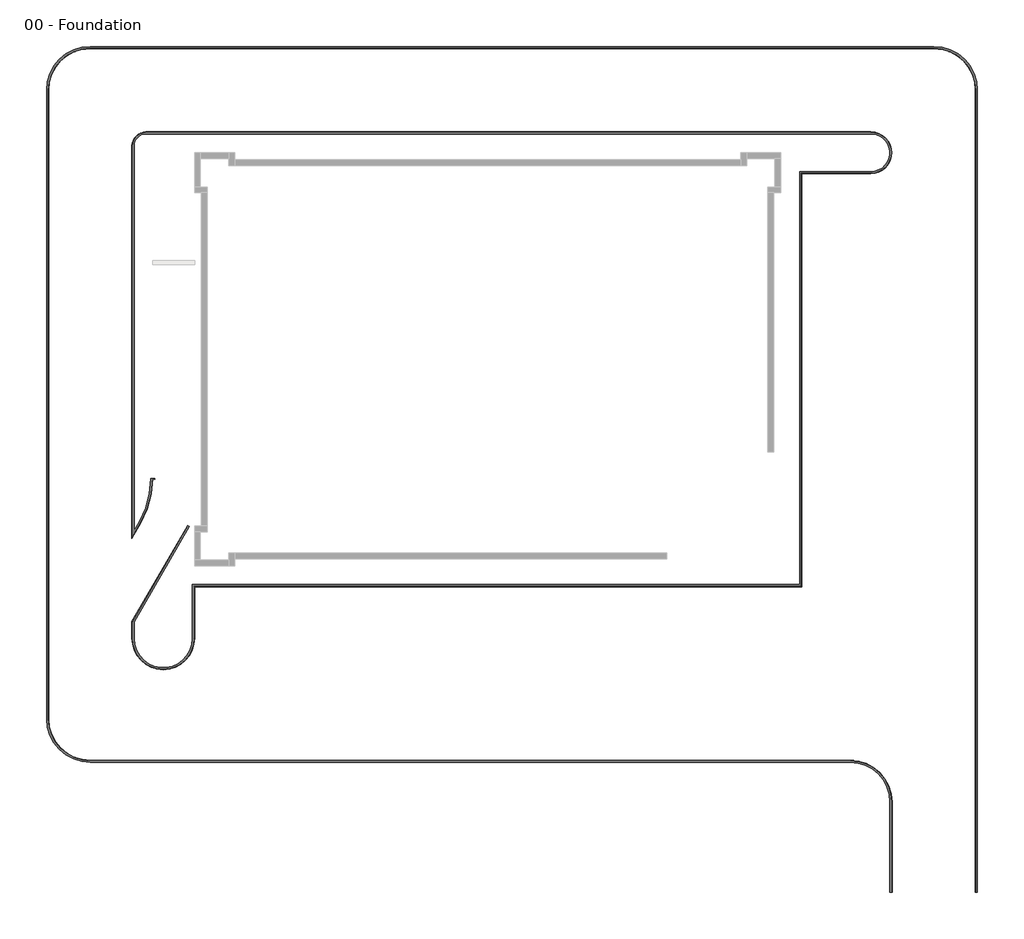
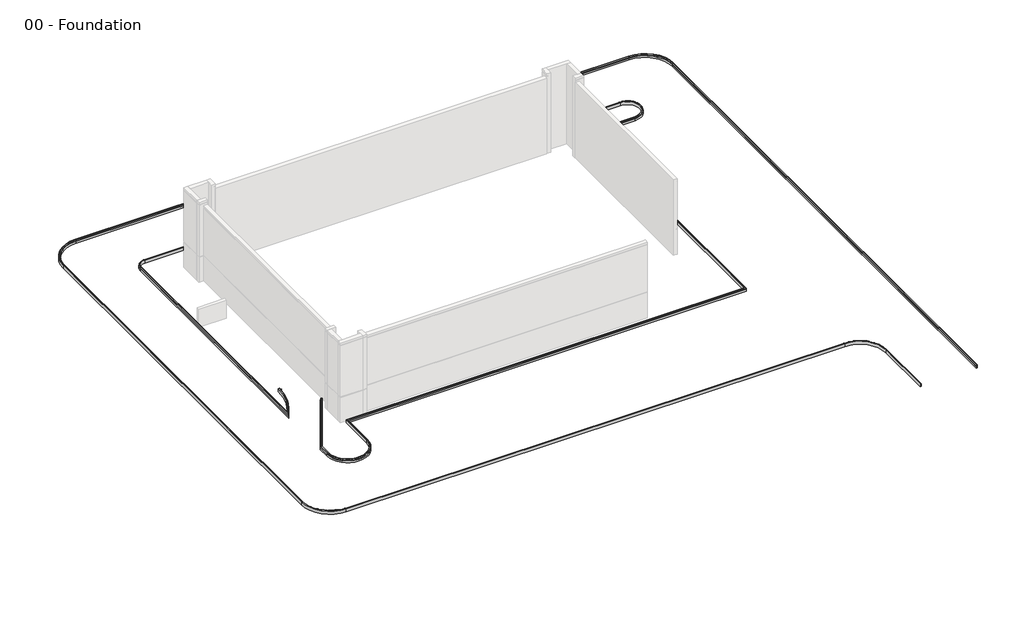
# One storey, part 2 of 2: 1 proxy.
"""IFC4 building model written with IfcOpenShell, lengths in millimetres."""

from ifc_helpers import new_model, si_unit, point, frame, origin, place, context, project, spatial, polyline, circle_curve, ellipse_curve, trimmed, element, save
from ifc_brep_helpers import plane_surface, cylinder_surface, revolved_surface, advanced_brep

model = new_model("IFC4")

# Units and contexts
model_context = context("Model", 3, world=origin())
ifc_project = project(units=[si_unit("LENGTHUNIT", "METRE", prefix="MILLI")], contexts=[model_context])

# Site, building, storey
site = spatial("IfcSite", under=ifc_project)
building = spatial("IfcBuilding", under=site)
storey = spatial("IfcBuildingStorey", under=building, Name="00 - Foundation", Elevation=-1250.0)

# Proxy
placement = place(None, origin())
element("IfcBuildingElementProxy", 1, Name="Curb", ObjectType="Curb", at=placement, inside=storey, context=model_context, shape_type="AdvancedBrep", body=[
    advanced_brep(
    [(33302.6061884, -38406.9313057, -36.4135952), (33280.5272279, -38406.9313057, -150.0), (33280.5272279, -38406.9313057, -350.0), (33430.5272279, -38406.9313057, -350.0), (33430.5272279, -38406.9313057, 0.0), (33346.7794117, -38406.9313057, 0.0), (33302.6061884, 19343.0686943, -36.4135952), (33280.5272279, 19343.0686943, -150.0), (33430.5272279, 19343.0686943, -350.0), (33280.5272279, 19343.0686943, -350.0), (33430.5272279, 19343.0686943, 0.0), (33346.7794117, 19343.0686943, 0.0), (30280.5272279, 22343.0686943, -150.0), (30280.5272279, 22343.0686943, -350.0), (27280.5272279, -38406.9313057, -150.0), (27258.4482674, -38406.9313057, -36.4135952), (27214.2750442, -38406.9313057, 0.0), (27130.5272279, -38406.9313057, 0.0), (27130.5272279, -38406.9313057, -350.0), (27280.5272279, -38406.9313057, -350.0), (27280.5272279, -31906.9313057, -150.0), (27258.4482674, -31906.9313057, -36.4135952), (27130.5272279, -31906.9313057, -350.0), (27280.5272279, -31906.9313057, -350.0), (27130.5272279, -31906.9313057, 0.0), (27214.2750442, -31906.9313057, 0.0), (24280.5272279, -28906.9313057, -350.0), (24280.5272279, -28906.9313057, -150.0), (24280.5272279, -28929.0102661, -36.4135952), (24280.5272279, -29056.9313057, -350.0), (24280.5272279, -29056.9313057, 0.0), (24280.5272279, -28973.1834894, 0.0), (-30419.4727721, -28906.9313057, -350.0), (-30419.4727721, -28906.9313057, -150.0), (-30419.4727721, -28929.0102661, -36.4135952), (-30419.4727721, -29056.9313057, -350.0), (-30419.4727721, -29056.9313057, 0.0), (-30419.4727721, -28973.1834894, 0.0), (-33419.4727721, -25906.9313057, -350.0), (-33419.4727721, -25906.9313057, -150.0), (-33419.4727721, 19343.0686943, -150.0), (-33419.4727721, 19343.0686943, -350.0), (-30419.4727721, 22343.0686943, -350.0), (-30419.4727721, 22343.0686943, -150.0), (-33441.5517326, -25906.9313057, -36.4135952), (-33569.4727721, -25906.9313057, -350.0), (-33569.4727721, -25906.9313057, 0.0), (-33485.7249558, -25906.9313057, 0.0), (-33441.5517326, 19343.0686943, -36.4135952), (-33569.4727721, 19343.0686943, -350.0), (-33569.4727721, 19343.0686943, 0.0), (-33485.7249558, 19343.0686943, 0.0), (-30419.4727721, 22365.1476548, -36.4135952), (-30419.4727721, 22493.0686943, -350.0), (-30419.4727721, 22493.0686943, 0.0), (-30419.4727721, 22409.3208781, 0.0), (30280.5272279, 22365.1476548, -36.4135952), (30280.5272279, 22493.0686943, -350.0), (30280.5272279, 22493.0686943, 0.0), (30280.5272279, 22409.3208781, 0.0)],
    [
        (0, 1),
        (1, 2),
        (2, 3),
        (3, 4),
        (4, 5),
        (5, 0, circle_curve(frame((33346.7794117, -38406.9313057, -45.0), z_axis=(0.0, -1.0, 0.0), x_axis=(1.0, 0.0, 0.0)), 45.0)),
        (0, 6),
        (6, 7),
        (7, 1),
        (8, 3),
        (2, 9),
        (9, 8),
        (8, 10),
        (10, 4),
        (10, 11),
        (11, 5),
        (11, 6, circle_curve(frame((33346.7794117, 19343.0686943, -45.0), z_axis=(0.0, -1.0, 0.0), x_axis=(1.0, 0.0, 0.0)), 45.0)),
        (9, 7),
        (7, 12, circle_curve(frame((30280.5272279, 19343.0686943, -150.0), z_axis=(0.0, 0.0, 1.0), x_axis=(1.0, 0.0, 0.0)), 3000.0)),
        (12, 13),
        (13, 9, circle_curve(frame((30280.5272279, 19343.0686943, -350.0), z_axis=(0.0, 0.0, -1.0), x_axis=(1.0, 0.0, 0.0)), 3000.0)),
        (14, 15),
        (15, 16, circle_curve(frame((27214.2750442, -38406.9313057, -45.0), z_axis=(0.0, -1.0, 0.0), x_axis=(-1.0, 0.0, 0.0)), 45.0)),
        (16, 17),
        (17, 18),
        (18, 19),
        (19, 14),
        (20, 21),
        (21, 15),
        (14, 20),
        (18, 22),
        (22, 23),
        (23, 19),
        (24, 22),
        (17, 24),
        (25, 24),
        (16, 25),
        (21, 25, circle_curve(frame((27214.2750442, -31906.9313057, -45.0), z_axis=(0.0, -1.0, 0.0), x_axis=(-1.0, 0.0, 0.0)), 45.0)),
        (23, 20),
        (23, 26, circle_curve(frame((24280.5272279, -31906.9313057, -350.0), z_axis=(0.0, 0.0, 1.0), x_axis=(1.0, 0.0, 0.0)), 3000.0)),
        (26, 27),
        (27, 20, circle_curve(frame((24280.5272279, -31906.9313057, -150.0), z_axis=(0.0, 0.0, -1.0), x_axis=(1.0, 0.0, 0.0)), 3000.0)),
        (27, 28),
        (28, 21, circle_curve(frame((24280.5272279, -31906.9313057, -36.4135952), z_axis=(0.0, 0.0, -1.0), x_axis=(0.0, 1.0, 0.0)), 2977.9210395)),
        (22, 29, circle_curve(frame((24280.5272279, -31906.9313057, -350.0), z_axis=(0.0, 0.0, 1.0), x_axis=(0.0, 1.0, 0.0)), 2850.0)),
        (29, 26),
        (24, 30, circle_curve(frame((24280.5272279, -31906.9313057, 0.0), z_axis=(0.0, 0.0, 1.0), x_axis=(0.0, 1.0, 0.0)), 2850.0)),
        (30, 29),
        (25, 31, circle_curve(frame((24280.5272279, -31906.9313057, 0.0), z_axis=(0.0, 0.0, 1.0), x_axis=(0.0, 1.0, 0.0)), 2933.7478163)),
        (31, 30),
        (28, 31, circle_curve(frame((24280.5272279, -28973.1834894, -45.0), z_axis=(1.0, 0.0, 0.0), x_axis=(0.0, -1.0, 0.0)), 45.0)),
        (26, 32),
        (32, 33),
        (33, 27),
        (33, 34),
        (34, 28),
        (29, 35),
        (35, 32),
        (30, 36),
        (36, 35),
        (31, 37),
        (37, 36),
        (34, 37, circle_curve(frame((-30419.4727721, -28973.1834894, -45.0), z_axis=(1.0, 0.0, 0.0), x_axis=(0.0, -1.0, 0.0)), 45.0)),
        (32, 38, circle_curve(frame((-30419.4727721, -25906.9313057, -350.0), z_axis=(0.0, 0.0, -1.0), x_axis=(1.0, 0.0, 0.0)), 3000.0)),
        (38, 39),
        (39, 33, circle_curve(frame((-30419.4727721, -25906.9313057, -150.0), z_axis=(0.0, 0.0, 1.0), x_axis=(1.0, 0.0, 0.0)), 3000.0)),
        (40, 41),
        (41, 42, circle_curve(frame((-30419.4727721, 19343.0686943, -350.0), z_axis=(0.0, 0.0, -1.0), x_axis=(1.0, 0.0, 0.0)), 3000.0)),
        (42, 43),
        (43, 40, circle_curve(frame((-30419.4727721, 19343.0686943, -150.0), z_axis=(0.0, 0.0, 1.0), x_axis=(1.0, 0.0, 0.0)), 3000.0)),
        (39, 44),
        (44, 34, circle_curve(frame((-30419.4727721, -25906.9313057, -36.4135952), z_axis=(0.0, 0.0, 1.0), x_axis=(-1.0, 0.0, 0.0)), 3022.0789605)),
        (35, 45, circle_curve(frame((-30419.4727721, -25906.9313057, -350.0), z_axis=(0.0, 0.0, -1.0), x_axis=(-1.0, 0.0, 0.0)), 3150.0)),
        (45, 38),
        (36, 46, circle_curve(frame((-30419.4727721, -25906.9313057, 0.0), z_axis=(0.0, 0.0, -1.0), x_axis=(-1.0, 0.0, 0.0)), 3150.0)),
        (46, 45),
        (37, 47, circle_curve(frame((-30419.4727721, -25906.9313057, 0.0), z_axis=(0.0, 0.0, -1.0), x_axis=(-1.0, 0.0, 0.0)), 3066.2521837)),
        (47, 46),
        (44, 47, circle_curve(frame((-33485.7249558, -25906.9313057, -45.0), z_axis=(0.0, -1.0, 0.0), x_axis=(-1.0, 0.0, 0.0)), 45.0)),
        (38, 41),
        (40, 39),
        (40, 48),
        (48, 44),
        (45, 49),
        (49, 41),
        (46, 50),
        (50, 49),
        (47, 51),
        (51, 50),
        (48, 51, circle_curve(frame((-33485.7249558, 19343.0686943, -45.0), z_axis=(0.0, -1.0, 0.0), x_axis=(-1.0, 0.0, 0.0)), 45.0)),
        (43, 52),
        (52, 48, circle_curve(frame((-30419.4727721, 19343.0686943, -36.4135952), z_axis=(0.0, 0.0, 1.0), x_axis=(0.0, 1.0, 0.0)), 3022.0789605)),
        (49, 53, circle_curve(frame((-30419.4727721, 19343.0686943, -350.0), z_axis=(0.0, 0.0, -1.0), x_axis=(0.0, 1.0, 0.0)), 3150.0)),
        (53, 42),
        (50, 54, circle_curve(frame((-30419.4727721, 19343.0686943, 0.0), z_axis=(0.0, 0.0, -1.0), x_axis=(0.0, 1.0, 0.0)), 3150.0)),
        (54, 53),
        (51, 55, circle_curve(frame((-30419.4727721, 19343.0686943, 0.0), z_axis=(0.0, 0.0, -1.0), x_axis=(0.0, 1.0, 0.0)), 3066.2521837)),
        (55, 54),
        (52, 55, circle_curve(frame((-30419.4727721, 22409.3208781, -45.0), z_axis=(-1.0, 0.0, 0.0), x_axis=(0.0, 1.0, 0.0)), 45.0)),
        (42, 13),
        (12, 43),
        (12, 56),
        (56, 52),
        (53, 57),
        (57, 13),
        (54, 58),
        (58, 57),
        (55, 59),
        (59, 58),
        (56, 59, circle_curve(frame((30280.5272279, 22409.3208781, -45.0), z_axis=(-1.0, 0.0, 0.0), x_axis=(0.0, 1.0, 0.0)), 45.0)),
        (6, 56, circle_curve(frame((30280.5272279, 19343.0686943, -36.4135952), z_axis=(0.0, 0.0, 1.0), x_axis=(1.0, 0.0, 0.0)), 3022.0789605)),
        (57, 8, circle_curve(frame((30280.5272279, 19343.0686943, -350.0), z_axis=(0.0, 0.0, -1.0), x_axis=(1.0, 0.0, 0.0)), 3150.0)),
        (58, 10, circle_curve(frame((30280.5272279, 19343.0686943, 0.0), z_axis=(0.0, 0.0, -1.0), x_axis=(1.0, 0.0, 0.0)), 3150.0)),
        (59, 11, circle_curve(frame((30280.5272279, 19343.0686943, 0.0), z_axis=(0.0, 0.0, -1.0), x_axis=(1.0, 0.0, 0.0)), 3066.2521837)),
    ],
    [
        plane_surface(frame((33030.5272279, -38406.9313057, -150.0), z_axis=(0.0, -1.0, 0.0), x_axis=(0.0, 0.0, 1.0))),
        plane_surface(frame((33302.6061884, -38406.9313057, -36.4135952), z_axis=(-0.9816271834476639, 0.0, 0.1908089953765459), x_axis=(0.0, 1.0, 0.0))),
        plane_surface(frame((33130.5272279, -38406.9313057, -350.0), z_axis=(0.0, 0.0, -1.0), x_axis=(0.0, 1.0, 0.0))),
        plane_surface(frame((33430.5272279, -38406.9313057, -350.0), z_axis=(1.0, 0.0, 0.0), x_axis=(0.0, 1.0, 0.0))),
        plane_surface(frame((33430.5272279, -38406.9313057, 0.0), z_axis=(0.0, 0.0, 1.0), x_axis=(0.0, 1.0, 0.0))),
        cylinder_surface(frame((33346.7794117, -38406.9313057, -45.0), z_axis=(0.0, -1.0, 0.0), x_axis=(1.0, 0.0, 0.0)), 45.0),
        revolved_surface(polyline([(33280.5272279, 19343.0686943, -350.0), (33280.5272279, 19343.0686943, -150.0)]), (30280.5272279, 19343.0686943, -150.0), (0.0, 0.0, -1.0)),
        plane_surface(frame((33280.5272279, 19343.0686943, -2350.0), z_axis=(-1.0, 0.0, 0.0), x_axis=(0.0, 0.0, 1.0))),
        plane_surface(frame((27030.5272279, -38406.9313057, -150.0), z_axis=(0.0, -1.0, 0.0), x_axis=(0.0, 0.0, -1.0))),
        plane_surface(frame((27258.4482674, -31906.9313057, -36.4135952), z_axis=(0.9816271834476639, 0.0, 0.1908089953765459), x_axis=(0.0, -1.0, 0.0))),
        plane_surface(frame((27430.5272279, -31906.9313057, -350.0), z_axis=(0.0, 0.0, -1.0), x_axis=(0.0, -1.0, 0.0))),
        plane_surface(frame((27130.5272279, -31906.9313057, -350.0), z_axis=(-1.0, 0.0, 0.0), x_axis=(0.0, -1.0, 0.0))),
        plane_surface(frame((27130.5272279, -31906.9313057, 0.0), z_axis=(0.0, 0.0, 1.0), x_axis=(0.0, -1.0, 0.0))),
        cylinder_surface(frame((27214.2750442, -31906.9313057, -45.0), z_axis=(0.0, 1.0, 0.0), x_axis=(-1.0, 0.0, 0.0)), 45.0),
        plane_surface(frame((27280.5272279, -38406.9313057, -2350.0), z_axis=(1.0, 0.0, 0.0), x_axis=(0.0, 0.0, 1.0))),
        cylinder_surface(frame((24280.5272279, -31906.9313057, -150.0), z_axis=(0.0, 0.0, 1.0), x_axis=(1.0, 0.0, 0.0)), 3000.0),
        revolved_surface(polyline([(24280.5272279, -28929.0102661, -36.4135952), (24280.5272279, -28906.9313057, -150.0)]), (24280.5272279, -31906.9313057, -150.0), (0.0, 0.0, -1.0)),
        plane_surface(frame((24280.5272279, -31906.9313057, -350.0), z_axis=(0.0, 0.0, -1.0), x_axis=(0.0, 1.0, 0.0))),
        revolved_surface(polyline([(24280.5272279, -29056.9313057, -350.0), (24280.5272279, -29056.9313057, 0.0)]), (24280.5272279, -31906.9313057, -150.0), (0.0, 0.0, -1.0)),
        plane_surface(frame((24280.5272279, -31906.9313057, 0.0), z_axis=(0.0, 0.0, 1.0), x_axis=(0.0, 1.0, 0.0))),
        revolved_surface(trimmed(ellipse_curve(frame((24280.5272279, -28973.1834894, -45.0), z_axis=(-1.0, 0.0, 0.0), x_axis=(0.0, -1.0, 0.0)), 45.0, 45.0), [point((24280.5272279, -28973.1834894, 0.0))], [point((24280.5272279, -28929.0102661, -36.4135952))], True, "CARTESIAN"), (24280.5272279, -31906.9313057, -150.0), (0.0, 0.0, -1.0)),
        plane_surface(frame((24280.5272279, -28906.9313057, -2350.0), z_axis=(0.0, 1.0, 0.0), x_axis=(0.0, 0.0, 1.0))),
        plane_surface(frame((-30419.4727721, -28929.0102661, -36.4135952), z_axis=(0.0, 0.9816271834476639, 0.1908089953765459), x_axis=(1.0, 0.0, 0.0))),
        plane_surface(frame((-30419.4727721, -28756.9313057, -350.0), z_axis=(0.0, 0.0, -1.0), x_axis=(1.0, 0.0, 0.0))),
        plane_surface(frame((-30419.4727721, -29056.9313057, -350.0), z_axis=(0.0, -1.0, 0.0), x_axis=(1.0, 0.0, 0.0))),
        plane_surface(frame((-30419.4727721, -29056.9313057, 0.0), z_axis=(0.0, 0.0, 1.0), x_axis=(1.0, 0.0, 0.0))),
        cylinder_surface(frame((-30419.4727721, -28973.1834894, -45.0), z_axis=(-1.0, 0.0, 0.0), x_axis=(0.0, -1.0, 0.0)), 45.0),
        revolved_surface(polyline([(-27419.4727721, -25906.9313057, -350.0), (-27419.4727721, -25906.9313057, -150.0)]), (-30419.4727721, -25906.9313057, -150.0), (0.0, 0.0, -1.0)),
        revolved_surface(polyline([(-27419.4727721, 19343.0686943, -350.0), (-27419.4727721, 19343.0686943, -150.0)]), (-30419.4727721, 19343.0686943, -150.0), (0.0, 0.0, -1.0)),
        revolved_surface(polyline([(-33441.5517326, -25906.9313057, -36.4135952), (-33419.4727721, -25906.9313057, -150.0)]), (-30419.4727721, -25906.9313057, -150.0), (0.0, 0.0, 1.0)),
        plane_surface(frame((-30419.4727721, -25906.9313057, -350.0), z_axis=(0.0, 0.0, -1.0), x_axis=(-1.0, 0.0, 0.0))),
        cylinder_surface(frame((-30419.4727721, -25906.9313057, -150.0), z_axis=(0.0, 0.0, 1.0), x_axis=(-1.0, 0.0, 0.0)), 3150.0),
        plane_surface(frame((-30419.4727721, -25906.9313057, 0.0), z_axis=(0.0, 0.0, 1.0), x_axis=(-1.0, 0.0, 0.0))),
        revolved_surface(trimmed(ellipse_curve(frame((-33485.7249558, -25906.9313057, -45.0), z_axis=(0.0, 1.0, 0.0), x_axis=(-1.0, 0.0, 0.0)), 45.0, 45.0), [point((-33485.7249558, -25906.9313057, 0.0))], [point((-33441.5517326, -25906.9313057, -36.4135952))], True, "CARTESIAN"), (-30419.4727721, -25906.9313057, -150.0), (0.0, 0.0, 1.0)),
        plane_surface(frame((-33419.4727721, -25906.9313057, -2350.0), z_axis=(1.0, 0.0, 0.0), x_axis=(0.0, 0.0, 1.0))),
        plane_surface(frame((-33441.5517326, 19343.0686943, -36.4135952), z_axis=(0.9816271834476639, 0.0, 0.1908089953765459), x_axis=(0.0, -1.0, 0.0))),
        plane_surface(frame((-33269.4727721, 19343.0686943, -350.0), z_axis=(0.0, 0.0, -1.0), x_axis=(0.0, -1.0, 0.0))),
        plane_surface(frame((-33569.4727721, 19343.0686943, -350.0), z_axis=(-1.0, 0.0, 0.0), x_axis=(0.0, -1.0, 0.0))),
        plane_surface(frame((-33569.4727721, 19343.0686943, 0.0), z_axis=(0.0, 0.0, 1.0), x_axis=(0.0, -1.0, 0.0))),
        cylinder_surface(frame((-33485.7249558, 19343.0686943, -45.0), z_axis=(0.0, 1.0, 0.0), x_axis=(-1.0, 0.0, 0.0)), 45.0),
        revolved_surface(polyline([(-30419.4727721, 22365.1476548, -36.4135952), (-30419.4727721, 22343.0686943, -150.0)]), (-30419.4727721, 19343.0686943, -150.0), (0.0, 0.0, 1.0)),
        plane_surface(frame((-30419.4727721, 19343.0686943, -350.0), z_axis=(0.0, 0.0, -1.0), x_axis=(0.0, 1.0, 0.0))),
        cylinder_surface(frame((-30419.4727721, 19343.0686943, -150.0), z_axis=(0.0, 0.0, 1.0), x_axis=(0.0, 1.0, 0.0)), 3150.0),
        plane_surface(frame((-30419.4727721, 19343.0686943, 0.0), z_axis=(0.0, 0.0, 1.0), x_axis=(0.0, 1.0, 0.0))),
        revolved_surface(trimmed(ellipse_curve(frame((-30419.4727721, 22409.3208781, -45.0), z_axis=(1.0, 0.0, 0.0), x_axis=(0.0, 1.0, 0.0)), 45.0, 45.0), [point((-30419.4727721, 22409.3208781, 0.0))], [point((-30419.4727721, 22365.1476548, -36.4135952))], True, "CARTESIAN"), (-30419.4727721, 19343.0686943, -150.0), (0.0, 0.0, 1.0)),
        plane_surface(frame((-30419.4727721, 22343.0686943, -2350.0), z_axis=(0.0, -1.0, 0.0), x_axis=(0.0, 0.0, 1.0))),
        plane_surface(frame((30280.5272279, 22365.1476548, -36.4135952), z_axis=(0.0, -0.9816271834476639, 0.1908089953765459), x_axis=(-1.0, 0.0, 0.0))),
        plane_surface(frame((30280.5272279, 22193.0686943, -350.0), z_axis=(0.0, 0.0, -1.0), x_axis=(-1.0, 0.0, 0.0))),
        plane_surface(frame((30280.5272279, 22493.0686943, -350.0), z_axis=(0.0, 1.0, 0.0), x_axis=(-1.0, 0.0, 0.0))),
        plane_surface(frame((30280.5272279, 22493.0686943, 0.0), z_axis=(0.0, 0.0, 1.0), x_axis=(-1.0, 0.0, 0.0))),
        cylinder_surface(frame((30280.5272279, 22409.3208781, -45.0), z_axis=(1.0, 0.0, 0.0), x_axis=(0.0, 1.0, 0.0)), 45.0),
        revolved_surface(polyline([(33302.6061884, 19343.0686943, -36.4135952), (33280.5272279, 19343.0686943, -150.0)]), (30280.5272279, 19343.0686943, -150.0), (0.0, 0.0, 1.0)),
        plane_surface(frame((30280.5272279, 19343.0686943, -350.0), z_axis=(0.0, 0.0, -1.0), x_axis=(1.0, 0.0, 0.0))),
        cylinder_surface(frame((30280.5272279, 19343.0686943, -150.0), z_axis=(0.0, 0.0, 1.0), x_axis=(1.0, 0.0, 0.0)), 3150.0),
        plane_surface(frame((30280.5272279, 19343.0686943, 0.0), z_axis=(0.0, 0.0, 1.0), x_axis=(1.0, 0.0, 0.0))),
        revolved_surface(trimmed(ellipse_curve(frame((33346.7794117, 19343.0686943, -45.0), z_axis=(0.0, -1.0, 0.0), x_axis=(1.0, 0.0, 0.0)), 45.0, 45.0), [point((33346.7794117, 19343.0686943, 0.0))], [point((33302.6061884, 19343.0686943, -36.4135952))], True, "CARTESIAN"), (30280.5272279, 19343.0686943, -150.0), (0.0, 0.0, 1.0)),
    ],
    [
        (0, [[1, 2, 3, 4, 5, 6]]),
        (1, [[-1, 7, 8, 9]]),
        (2, [[10, -3, 11, 12]]),
        (3, [[-4, -10, 13, 14]]),
        (4, [[-5, -14, 15, 16]]),
        (5, [[-6, -16, 17, -7]]),
        (6, [[18, 19, 20, 21]]),
        (7, [[-18, -11, -2, -9]]),
        (8, [[22, 23, 24, 25, 26, 27]]),
        (9, [[28, 29, -22, 30]]),
        (10, [[31, 32, 33, -26]]),
        (11, [[34, -31, -25, 35]]),
        (12, [[36, -35, -24, 37]]),
        (13, [[38, -37, -23, -29]]),
        (14, [[39, -30, -27, -33]]),
        (15, [[-39, 40, 41, 42]]),
        (16, [[-28, -42, 43, 44]]),
        (17, [[45, 46, -40, -32]]),
        (18, [[-34, 47, 48, -45]]),
        (19, [[-36, 49, 50, -47]]),
        (20, [[-38, -44, 51, -49]]),
        (21, [[-41, 52, 53, 54]]),
        (22, [[-43, -54, 55, 56]]),
        (23, [[57, 58, -52, -46]]),
        (24, [[-48, 59, 60, -57]]),
        (25, [[-50, 61, 62, -59]]),
        (26, [[-51, -56, 63, -61]]),
        (27, [[-53, 64, 65, 66]]),
        (28, [[67, 68, 69, 70]]),
        (29, [[-55, -66, 71, 72]]),
        (30, [[73, 74, -64, -58]]),
        (31, [[-60, 75, 76, -73]]),
        (32, [[-62, 77, 78, -75]]),
        (33, [[-63, -72, 79, -77]]),
        (34, [[-65, 80, -67, 81]]),
        (35, [[-71, -81, 82, 83]]),
        (36, [[84, 85, -80, -74]]),
        (37, [[-76, 86, 87, -84]]),
        (38, [[-78, 88, 89, -86]]),
        (39, [[-79, -83, 90, -88]]),
        (40, [[-82, -70, 91, 92]]),
        (41, [[93, 94, -68, -85]]),
        (42, [[-87, 95, 96, -93]]),
        (43, [[-89, 97, 98, -95]]),
        (44, [[-90, -92, 99, -97]]),
        (45, [[-69, 100, -20, 101]]),
        (46, [[-91, -101, 102, 103]]),
        (47, [[104, 105, -100, -94]]),
        (48, [[-96, 106, 107, -104]]),
        (49, [[-98, 108, 109, -106]]),
        (50, [[-99, -103, 110, -108]]),
        (51, [[-102, -19, -8, 111]]),
        (52, [[112, -12, -21, -105]]),
        (53, [[-107, 113, -13, -112]]),
        (54, [[-109, 114, -15, -113]]),
        (55, [[-110, -111, -17, -114]]),
    ],
),
    advanced_brep(
    [(25767.0057917, 16343.0686943, -350.0), (25767.0057917, 16343.0686943, -150.0), (25767.0057917, 13343.0686943, -150.0), (25767.0057917, 13343.0686943, -350.0), (-26419.4727721, 16343.0686943, -350.0), (-26419.4727721, 16343.0686943, -150.0), (20780.5272279, 13343.0686943, -150.0), (20780.5272279, 13343.0686943, -350.0), (-27419.4727721, 15343.0686943, -350.0), (-27419.4727721, 15343.0686943, -150.0), (-27419.4727721, -20131.4306768, -350.0), (-27419.4727721, -20131.4306768, -150.0), (-27419.4727721, -18919.4602417, -150.0), (-27419.4727721, -18919.4602417, -350.0), (-22919.4727721, -20131.4306768, -350.0), (-22919.4727721, -20131.4306768, -150.0), (-22919.4727721, -16406.9313057, -350.0), (-22919.4727721, -16406.9313057, -150.0), (20780.5272279, -16406.9313057, -350.0), (20780.5272279, -16406.9313057, -150.0), (-27419.4727721, -12919.4602417, -350.0), (-27419.4727721, -12919.4602417, -150.0), (-26776.9101879, -11806.5091988, -350.0), (-26776.9101879, -11806.5091988, -150.0), (-25919.4727721, -8606.5091988, -350.0), (-25919.4727721, -8606.5091988, -150.0), (-23415.1787781, -11983.8195957, -150.0), (-23415.1787781, -11983.8195957, -350.0), (-26419.4727721, 16320.9897339, -36.4135952), (25767.0057917, 16320.9897339, -36.4135952), (25767.0057917, 16193.0686943, -350.0), (-26419.4727721, 16193.0686943, -350.0), (-26419.4727721, 16193.0686943, 0.0), (25767.0057917, 16193.0686943, 0.0), (-26419.4727721, 16276.8165106, 0.0), (25767.0057917, 16276.8165106, 0.0), (25767.0057917, 13365.1476548, -36.4135952), (25767.0057917, 13493.0686943, -350.0), (25767.0057917, 13493.0686943, 0.0), (25767.0057917, 13409.3208781, 0.0), (20758.4482674, 13365.1476548, -36.4135952), (20630.5272279, 13493.0686943, -350.0), (20630.5272279, 13493.0686943, 0.0), (20714.2750442, 13409.3208781, 0.0), (20758.4482674, -16384.8523452, -36.4135952), (20630.5272279, -16256.9313057, -350.0), (20630.5272279, -16256.9313057, 0.0), (20714.2750442, -16340.6791219, 0.0), (-22941.5517326, -16384.8523452, -36.4135952), (-23069.4727721, -16256.9313057, -350.0), (-23069.4727721, -16256.9313057, 0.0), (-22985.7249558, -16340.6791219, 0.0), (-22941.5517326, -20131.4306768, -36.4135952), (-23069.4727721, -20131.4306768, -350.0), (-23069.4727721, -20131.4306768, 0.0), (-22985.7249558, -20131.4306768, 0.0), (-27397.3938116, -20131.4306768, -36.4135952), (-27269.4727721, -20131.4306768, -350.0), (-27269.4727721, -20131.4306768, 0.0), (-27353.2205883, -20131.4306768, 0.0), (-27397.3938116, -18925.3762814, -36.4135952), (-27269.4727721, -18959.6526206, -350.0), (-27269.4727721, -18959.6526206, 0.0), (-27353.2205883, -18937.2124609, 0.0), (-23396.0578374, -11994.8590759, -36.4135952), (-23357.8027039, -12016.9456875, 0.0), (-23285.2749675, -12058.8195957, 0.0), (-23285.2749675, -12058.8195957, -350.0), (-26796.0311285, -11795.4697186, -36.4135952), (-27397.3938116, -12837.0604394, -36.4135952), (-27269.4727721, -12359.6526206, -350.0), (-26906.8139984, -11731.5091988, -350.0), (-26906.8139984, -11731.5091988, 0.0), (-27269.4727721, -12359.6526206, 0.0), (-26834.286262, -11773.3831069, 0.0), (-27353.2205883, -12672.2037259, 0.0), (-25941.5517326, -8606.5091988, -36.4135952), (-26069.4727721, -8606.5091988, -350.0), (-26069.4727721, -8606.5091988, 0.0), (-25985.7249558, -8606.5091988, 0.0), (-27397.3938116, 15343.0686943, -36.4135952), (-27269.4727721, 15343.0686943, -350.0), (-27269.4727721, 15343.0686943, 0.0), (-27353.2205883, 15343.0686943, 0.0)],
    [
        (0, 1),
        (1, 2, circle_curve(frame((25767.0057917, 14843.0686943, -150.0), z_axis=(0.0, 0.0, -1.0), x_axis=(1.0, 0.0, 0.0)), 1500.0)),
        (2, 3),
        (3, 0, circle_curve(frame((25767.0057917, 14843.0686943, -350.0), z_axis=(0.0, 0.0, 1.0), x_axis=(1.0, 0.0, 0.0)), 1500.0)),
        (0, 4),
        (4, 5),
        (5, 1),
        (2, 6),
        (6, 7),
        (7, 3),
        (8, 9),
        (9, 5, circle_curve(frame((-26419.4727721, 15343.0686943, -150.0), z_axis=(0.0, 0.0, -1.0), x_axis=(1.0, 0.0, 0.0)), 1000.0)),
        (4, 8, circle_curve(frame((-26419.4727721, 15343.0686943, -350.0), z_axis=(0.0, 0.0, 1.0), x_axis=(1.0, 0.0, 0.0)), 1000.0)),
        (10, 11),
        (11, 12),
        (12, 13),
        (13, 10),
        (14, 15),
        (15, 11, circle_curve(frame((-25169.4727721, -20131.4306768, -150.0), z_axis=(0.0, 0.0, -1.0), x_axis=(1.0, 0.0, 0.0)), 2250.0)),
        (10, 14, circle_curve(frame((-25169.4727721, -20131.4306768, -350.0), z_axis=(0.0, 0.0, 1.0), x_axis=(1.0, 0.0, 0.0)), 2250.0)),
        (16, 17),
        (17, 15),
        (14, 16),
        (18, 19),
        (19, 17),
        (16, 18),
        (6, 19),
        (18, 7),
        (20, 21),
        (21, 9),
        (8, 20),
        (20, 22),
        (22, 23),
        (23, 21),
        (22, 24, circle_curve(frame((-32319.4727721, -8606.5091988, -350.0), z_axis=(0.0, 0.0, 1.0), x_axis=(1.0, 0.0, 0.0)), 6400.0)),
        (24, 25),
        (25, 23, circle_curve(frame((-32319.4727721, -8606.5091988, -150.0), z_axis=(0.0, 0.0, -1.0), x_axis=(1.0, 0.0, 0.0)), 6400.0)),
        (12, 26),
        (26, 27),
        (27, 13),
        (5, 28),
        (28, 29),
        (29, 1),
        (30, 31),
        (31, 4),
        (0, 30),
        (32, 31),
        (30, 33),
        (33, 32),
        (34, 32),
        (33, 35),
        (35, 34),
        (28, 34, circle_curve(frame((-26419.4727721, 16276.8165106, -45.0), z_axis=(1.0, 0.0, 0.0), x_axis=(0.0, -1.0, 0.0)), 45.0)),
        (35, 29, circle_curve(frame((25767.0057917, 16276.8165106, -45.0), z_axis=(-1.0, 0.0, 0.0), x_axis=(0.0, -1.0, 0.0)), 45.0)),
        (29, 36, circle_curve(frame((25767.0057917, 14843.0686943, -36.4135952), z_axis=(0.0, 0.0, -1.0), x_axis=(0.0, 1.0, 0.0)), 1477.9210395)),
        (36, 2),
        (37, 30, circle_curve(frame((25767.0057917, 14843.0686943, -350.0), z_axis=(0.0, 0.0, 1.0), x_axis=(0.0, 1.0, 0.0)), 1350.0)),
        (3, 37),
        (37, 38),
        (38, 33, circle_curve(frame((25767.0057917, 14843.0686943, 0.0), z_axis=(0.0, 0.0, 1.0), x_axis=(0.0, 1.0, 0.0)), 1350.0)),
        (38, 39),
        (39, 35, circle_curve(frame((25767.0057917, 14843.0686943, 0.0), z_axis=(0.0, 0.0, 1.0), x_axis=(0.0, 1.0, 0.0)), 1433.7478163)),
        (39, 36, circle_curve(frame((25767.0057917, 13409.3208781, -45.0), z_axis=(1.0, 0.0, 0.0), x_axis=(0.0, 1.0, 0.0)), 45.0)),
        (36, 40),
        (40, 6),
        (41, 37),
        (7, 41),
        (41, 42),
        (42, 38),
        (42, 43),
        (43, 39),
        (43, 40, ellipse_curve(frame((20714.2750442, 13409.3208781, -45.0), z_axis=(0.7071067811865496, 0.7071067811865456, 0.0), x_axis=(0.7071067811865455, -0.7071067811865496, 0.0)), 63.6396103, 45.0)),
        (40, 44),
        (44, 19),
        (45, 41),
        (18, 45),
        (45, 46),
        (46, 42),
        (46, 47),
        (47, 43),
        (47, 44, ellipse_curve(frame((20714.2750442, -16340.6791219, -45.0), z_axis=(0.7071067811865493, 0.7071067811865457, 0.0), x_axis=(-0.7071067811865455, 0.7071067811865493, 0.0)), 63.6396103, 45.0)),
        (44, 48),
        (48, 17),
        (49, 45),
        (16, 49),
        (49, 50),
        (50, 46),
        (50, 51),
        (51, 47),
        (51, 48, ellipse_curve(frame((-22985.7249558, -16340.6791219, -45.0), z_axis=(0.7071067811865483, 0.7071067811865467, 0.0), x_axis=(0.7071067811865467, -0.7071067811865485, 0.0)), 63.6396103, 45.0)),
        (48, 52),
        (52, 15),
        (53, 49),
        (14, 53),
        (53, 54),
        (54, 50),
        (54, 55),
        (55, 51),
        (55, 52, circle_curve(frame((-22985.7249558, -20131.4306768, -45.0), z_axis=(0.0, 1.0, 0.0), x_axis=(-1.0, 0.0, 0.0)), 45.0)),
        (52, 56, circle_curve(frame((-25169.4727721, -20131.4306768, -36.4135952), z_axis=(0.0, 0.0, -1.0), x_axis=(1.0, 0.0, 0.0)), 2227.9210395)),
        (56, 11),
        (57, 53, circle_curve(frame((-25169.4727721, -20131.4306768, -350.0), z_axis=(0.0, 0.0, 1.0), x_axis=(1.0, 0.0, 0.0)), 2100.0)),
        (10, 57),
        (57, 58),
        (58, 54, circle_curve(frame((-25169.4727721, -20131.4306768, 0.0), z_axis=(0.0, 0.0, 1.0), x_axis=(1.0, 0.0, 0.0)), 2100.0)),
        (58, 59),
        (59, 55, circle_curve(frame((-25169.4727721, -20131.4306768, 0.0), z_axis=(0.0, 0.0, 1.0), x_axis=(1.0, 0.0, 0.0)), 2183.7478163)),
        (59, 56, circle_curve(frame((-27353.2205883, -20131.4306768, -45.0), z_axis=(0.0, -1.0, 0.0), x_axis=(1.0, 0.0, 0.0)), 45.0)),
        (56, 60),
        (60, 12),
        (61, 57),
        (13, 61),
        (61, 62),
        (62, 58),
        (62, 63),
        (63, 59),
        (63, 60, ellipse_curve(frame((-27353.2205883, -18937.2124609, -45.0), z_axis=(-0.2588190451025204, -0.9659258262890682, 0.0), x_axis=(0.9659258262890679, -0.25881904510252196, 0.0)), 46.5874281, 45.0)),
        (26, 64),
        (64, 65, circle_curve(frame((-23357.8027039, -12016.9456875, -45.0), z_axis=(0.5000000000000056, 0.8660254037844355, 0.0), x_axis=(0.8660254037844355, -0.5000000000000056, 0.0)), 45.0)),
        (65, 66),
        (66, 67),
        (67, 27),
        (60, 64),
        (67, 61),
        (66, 62),
        (65, 63),
        (23, 68),
        (68, 69),
        (69, 21),
        (70, 71),
        (71, 22),
        (20, 70),
        (72, 71),
        (70, 73),
        (73, 72),
        (74, 72),
        (73, 75),
        (75, 74),
        (68, 74, circle_curve(frame((-26834.286262, -11773.3831069, -45.0), z_axis=(-0.5000000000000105, -0.8660254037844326, 0.0), x_axis=(-0.8660254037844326, 0.5000000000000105, 0.0)), 45.0)),
        (75, 69, ellipse_curve(frame((-27353.2205883, -12672.2037259, -45.0), z_axis=(0.9659258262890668, -0.2588190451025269, 0.0), x_axis=(0.2588190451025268, 0.9659258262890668, 0.0)), 173.8666487, 45.0)),
        (76, 25),
        (24, 77),
        (77, 78),
        (78, 79),
        (79, 76, circle_curve(frame((-25985.7249558, -8606.5091988, -45.0), z_axis=(0.0, 1.0, 0.0), x_axis=(-1.0, 0.0, 0.0)), 45.0)),
        (76, 68, circle_curve(frame((-32319.4727721, -8606.5091988, -36.4135952), z_axis=(0.0, 0.0, -1.0), x_axis=(1.0, 0.0, 0.0)), 6377.9210395)),
        (71, 77, circle_curve(frame((-32319.4727721, -8606.5091988, -350.0), z_axis=(0.0, 0.0, 1.0), x_axis=(1.0, 0.0, 0.0)), 6250.0)),
        (72, 78, circle_curve(frame((-32319.4727721, -8606.5091988, 0.0), z_axis=(0.0, 0.0, 1.0), x_axis=(1.0, 0.0, 0.0)), 6250.0)),
        (74, 79, circle_curve(frame((-32319.4727721, -8606.5091988, 0.0), z_axis=(0.0, 0.0, 1.0), x_axis=(1.0, 0.0, 0.0)), 6333.7478163)),
        (69, 80),
        (80, 9),
        (81, 70),
        (8, 81),
        (81, 82),
        (82, 73),
        (82, 83),
        (83, 75),
        (83, 80, circle_curve(frame((-27353.2205883, 15343.0686943, -45.0), z_axis=(0.0, -1.0, 0.0), x_axis=(1.0, 0.0, 0.0)), 45.0)),
        (80, 28, circle_curve(frame((-26419.4727721, 15343.0686943, -36.4135952), z_axis=(0.0, 0.0, -1.0), x_axis=(-1.0, 0.0, 0.0)), 977.9210395)),
        (31, 81, circle_curve(frame((-26419.4727721, 15343.0686943, -350.0), z_axis=(0.0, 0.0, 1.0), x_axis=(-1.0, 0.0, 0.0)), 850.0)),
        (32, 82, circle_curve(frame((-26419.4727721, 15343.0686943, 0.0), z_axis=(0.0, 0.0, 1.0), x_axis=(-1.0, 0.0, 0.0)), 850.0)),
        (34, 83, circle_curve(frame((-26419.4727721, 15343.0686943, 0.0), z_axis=(0.0, 0.0, 1.0), x_axis=(-1.0, 0.0, 0.0)), 933.7478163)),
    ],
    [
        cylinder_surface(frame((25767.0057917, 14843.0686943, 0.0), z_axis=(0.0, 0.0, 1.0), x_axis=(1.0, 0.0, 0.0)), 1500.0),
        plane_surface(frame((25767.0057917, 16343.0686943, -2350.0), z_axis=(0.0, 1.0, 0.0), x_axis=(0.0, 0.0, 1.0))),
        plane_surface(frame((20780.5272279, 13343.0686943, -2350.0), z_axis=(0.0, -1.0, 0.0), x_axis=(0.0, 0.0, 1.0))),
        cylinder_surface(frame((-26419.4727721, 15343.0686943, 0.0), z_axis=(0.0, 0.0, 1.0), x_axis=(1.0, 0.0, 0.0)), 1000.0),
        plane_surface(frame((-27419.4727721, -18919.4602417, -2350.0), z_axis=(-1.0, 0.0, 0.0), x_axis=(0.0, 0.0, 1.0))),
        cylinder_surface(frame((-25169.4727721, -20131.4306768, 0.0), z_axis=(0.0, 0.0, 1.0), x_axis=(1.0, 0.0, 0.0)), 2250.0),
        plane_surface(frame((-22919.4727721, -20131.4306768, -2350.0), z_axis=(1.0, 0.0, 0.0), x_axis=(0.0, 0.0, 1.0))),
        plane_surface(frame((-22919.4727721, -16406.9313057, -2350.0), z_axis=(0.0, -1.0, 0.0), x_axis=(0.0, 0.0, 1.0))),
        plane_surface(frame((20780.5272279, -16406.9313057, -2350.0), z_axis=(1.0, 0.0, 0.0), x_axis=(0.0, 0.0, 1.0))),
        plane_surface(frame((-27419.4727721, 15343.0686943, -2350.0), z_axis=(-1.0, 0.0, 0.0), x_axis=(0.0, 0.0, 1.0))),
        plane_surface(frame((-27419.4727721, -12919.4602417, -2350.0), z_axis=(0.8660254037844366, -0.5000000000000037, 0.0), x_axis=(0.0, 0.0, 1.0))),
        cylinder_surface(frame((-32319.4727721, -8606.5091988, 0.0), z_axis=(0.0, 0.0, 1.0), x_axis=(1.0, 0.0, 0.0)), 6400.0),
        plane_surface(frame((-23415.1787781, -11983.8195957, -2350.0), z_axis=(-0.8660254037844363, 0.5000000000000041, 0.0), x_axis=(0.0, 0.0, 1.0))),
        plane_surface(frame((-26419.4727721, 16320.9897339, -36.4135952), z_axis=(0.0, 0.9816271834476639, 0.19080899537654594), x_axis=(1.0, 0.0, 0.0))),
        plane_surface(frame((-26419.4727721, 16493.0686943, -350.0), z_axis=(0.0, 0.0, -1.0), x_axis=(1.0, 0.0, 0.0))),
        plane_surface(frame((-26419.4727721, 16193.0686943, -350.0), z_axis=(0.0, -1.0, 0.0), x_axis=(1.0, 0.0, 0.0))),
        plane_surface(frame((-26419.4727721, 16193.0686943, 0.0), z_axis=(0.0, 0.0, 1.0), x_axis=(1.0, 0.0, 0.0))),
        cylinder_surface(frame((-26419.4727721, 16276.8165106, -45.0), z_axis=(-1.0, 0.0, 0.0), x_axis=(0.0, -1.0, 0.0)), 45.0),
        revolved_surface(polyline([(25767.0057917, 16320.9897339, -36.4135952), (25767.0057917, 16343.0686943, -150.0)]), (25767.0057917, 14843.0686943, -150.0), (0.0, 0.0, -1.0)),
        plane_surface(frame((25767.0057917, 14843.0686943, -350.0), z_axis=(0.0, 0.0, -1.0), x_axis=(0.0, 1.0, 0.0))),
        revolved_surface(polyline([(25767.0057917, 16193.0686943, -350.0), (25767.0057917, 16193.0686943, 0.0)]), (25767.0057917, 14843.0686943, -150.0), (0.0, 0.0, -1.0)),
        plane_surface(frame((25767.0057917, 14843.0686943, 0.0), z_axis=(0.0, 0.0, 1.0), x_axis=(0.0, 1.0, 0.0))),
        revolved_surface(trimmed(ellipse_curve(frame((25767.0057917, 16276.8165106, -45.0), z_axis=(-1.0, 0.0, 0.0), x_axis=(0.0, -1.0, 0.0)), 45.0, 45.0), [point((25767.0057917, 16276.8165106, 0.0))], [point((25767.0057917, 16320.9897339, -36.4135952))], True, "CARTESIAN"), (25767.0057917, 14843.0686943, -150.0), (0.0, 0.0, -1.0)),
        plane_surface(frame((25767.0057917, 13365.1476548, -36.4135952), z_axis=(0.0, -0.9816271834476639, 0.19080899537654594), x_axis=(-1.0, 0.0, 0.0))),
        plane_surface(frame((25767.0057917, 13193.0686943, -350.0), z_axis=(0.0, 0.0, -1.0), x_axis=(-1.0, 0.0, 0.0))),
        plane_surface(frame((25767.0057917, 13493.0686943, -350.0), z_axis=(0.0, 1.0, 0.0), x_axis=(-1.0, 0.0, 0.0))),
        plane_surface(frame((25767.0057917, 13493.0686943, 0.0), z_axis=(0.0, 0.0, 1.0), x_axis=(-1.0, 0.0, 0.0))),
        cylinder_surface(frame((25767.0057917, 13409.3208781, -45.0), z_axis=(1.0, 0.0, 0.0), x_axis=(0.0, 1.0, 0.0)), 45.0),
        plane_surface(frame((20758.4482674, 13365.1476548, -36.4135952), z_axis=(0.9816271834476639, 0.0, 0.19080899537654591), x_axis=(0.0, -1.0, 0.0))),
        plane_surface(frame((20930.5272279, 13193.0686943, -350.0), z_axis=(0.0, 0.0, -1.0), x_axis=(0.0, -1.0, 0.0))),
        plane_surface(frame((20630.5272279, 13493.0686943, -350.0), z_axis=(-1.0, 0.0, 0.0), x_axis=(0.0, -1.0, 0.0))),
        plane_surface(frame((20630.5272279, 13493.0686943, 0.0), z_axis=(0.0, 0.0, 1.0), x_axis=(0.0, -1.0, 0.0))),
        cylinder_surface(frame((20714.2750442, 13343.0686943, -45.0), z_axis=(0.0, 1.0, 0.0), x_axis=(-1.0, 0.0, 0.0)), 45.0),
        plane_surface(frame((20758.4482674, -16384.8523452, -36.4135952), z_axis=(0.0, -0.9816271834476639, 0.1908089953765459), x_axis=(-1.0, 0.0, 0.0))),
        plane_surface(frame((20930.5272279, -16556.9313057, -350.0), z_axis=(0.0, 0.0, -1.0), x_axis=(-1.0, 0.0, 0.0))),
        plane_surface(frame((20630.5272279, -16256.9313057, -350.0), z_axis=(0.0, 1.0, 0.0), x_axis=(-1.0, 0.0, 0.0))),
        plane_surface(frame((20630.5272279, -16256.9313057, 0.0), z_axis=(0.0, 0.0, 1.0), x_axis=(-1.0, 0.0, 0.0))),
        cylinder_surface(frame((20780.5272279, -16340.6791219, -45.0), z_axis=(1.0, 0.0, 0.0), x_axis=(0.0, 1.0, 0.0)), 45.0),
        plane_surface(frame((-22941.5517326, -16384.8523452, -36.4135952), z_axis=(0.9816271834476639, 0.0, 0.1908089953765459), x_axis=(0.0, -1.0, 0.0))),
        plane_surface(frame((-22769.4727721, -16556.9313057, -350.0), z_axis=(0.0, 0.0, -1.0), x_axis=(0.0, -1.0, 0.0))),
        plane_surface(frame((-23069.4727721, -16256.9313057, -350.0), z_axis=(-1.0, 0.0, 0.0), x_axis=(0.0, -1.0, 0.0))),
        plane_surface(frame((-23069.4727721, -16256.9313057, 0.0), z_axis=(0.0, 0.0, 1.0), x_axis=(0.0, -1.0, 0.0))),
        cylinder_surface(frame((-22985.7249558, -16406.9313057, -45.0), z_axis=(0.0, 1.0, 0.0), x_axis=(-1.0, 0.0, 0.0)), 45.0),
        revolved_surface(polyline([(-22941.5517326, -20131.4306768, -36.4135952), (-22919.4727721, -20131.4306768, -150.0)]), (-25169.4727721, -20131.4306768, -150.0), (0.0, 0.0, -1.0)),
        plane_surface(frame((-25169.4727721, -20131.4306768, -350.0), z_axis=(0.0, 0.0, -1.0), x_axis=(1.0, 0.0, 0.0))),
        revolved_surface(polyline([(-23069.4727721, -20131.4306768, -350.0), (-23069.4727721, -20131.4306768, 0.0)]), (-25169.4727721, -20131.4306768, -150.0), (0.0, 0.0, -1.0)),
        plane_surface(frame((-25169.4727721, -20131.4306768, 0.0), z_axis=(0.0, 0.0, 1.0), x_axis=(1.0, 0.0, 0.0))),
        revolved_surface(trimmed(ellipse_curve(frame((-22985.7249558, -20131.4306768, -45.0), z_axis=(0.0, 1.0, 0.0), x_axis=(-1.0, 0.0, 0.0)), 45.0, 45.0), [point((-22985.7249558, -20131.4306768, 0.0))], [point((-22941.5517326, -20131.4306768, -36.4135952))], True, "CARTESIAN"), (-25169.4727721, -20131.4306768, -150.0), (0.0, 0.0, -1.0)),
        plane_surface(frame((-27397.3938116, -20131.4306768, -36.4135952), z_axis=(-0.9816271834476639, 0.0, 0.1908089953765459), x_axis=(0.0, 1.0, 0.0))),
        plane_surface(frame((-27569.4727721, -20131.4306768, -350.0), z_axis=(0.0, 0.0, -1.0), x_axis=(0.0, 1.0, 0.0))),
        plane_surface(frame((-27269.4727721, -20131.4306768, -350.0), z_axis=(1.0, 0.0, 0.0), x_axis=(0.0, 1.0, 0.0))),
        plane_surface(frame((-27269.4727721, -20131.4306768, 0.0), z_axis=(0.0, 0.0, 1.0), x_axis=(0.0, 1.0, 0.0))),
        cylinder_surface(frame((-27353.2205883, -20131.4306768, -45.0), z_axis=(0.0, -1.0, 0.0), x_axis=(1.0, 0.0, 0.0)), 45.0),
        plane_surface(frame((-23415.1787781, -11983.8195957, 100.0), z_axis=(0.5000000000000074, 0.8660254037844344, 0.0), x_axis=(0.8660254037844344, -0.5000000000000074, 0.0))),
        plane_surface(frame((-27397.3938116, -18925.3762814, -36.4135952), z_axis=(-0.8501140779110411, 0.4908135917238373, 0.19080899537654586), x_axis=(0.5000000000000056, 0.8660254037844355, 0.0))),
        plane_surface(frame((-27569.4727721, -18879.2678629, -350.0), z_axis=(0.0, 0.0, -1.0), x_axis=(0.5000000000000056, 0.8660254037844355, 0.0))),
        plane_surface(frame((-27269.4727721, -18959.6526206, -350.0), z_axis=(0.8660254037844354, -0.5000000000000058, 0.0), x_axis=(0.5000000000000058, 0.8660254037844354, 0.0))),
        plane_surface(frame((-27269.4727721, -18959.6526206, 0.0), z_axis=(0.0, 0.0, 1.0), x_axis=(0.5000000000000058, 0.8660254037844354, 0.0))),
        cylinder_surface(frame((-27362.0966979, -18952.5863336, -45.0), z_axis=(-0.5000000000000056, -0.8660254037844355, 0.0), x_axis=(0.8660254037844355, -0.5000000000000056, 0.0)), 45.0),
        plane_surface(frame((-26796.0311285, -11795.4697186, -36.4135952), z_axis=(0.8501140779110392, -0.4908135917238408, 0.19080899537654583), x_axis=(-0.5000000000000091, -0.8660254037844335, 0.0))),
        plane_surface(frame((-26647.0063773, -11881.5091988, -350.0), z_axis=(0.0, 0.0, -1.0), x_axis=(-0.50000000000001, -0.8660254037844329, 0.0))),
        plane_surface(frame((-26906.8139984, -11731.5091988, -350.0), z_axis=(-0.8660254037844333, 0.5000000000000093, 0.0), x_axis=(-0.5000000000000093, -0.8660254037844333, 0.0))),
        plane_surface(frame((-26906.8139984, -11731.5091988, 0.0), z_axis=(0.0, 0.0, 1.0), x_axis=(-0.5000000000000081, -0.866025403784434, 0.0))),
        cylinder_surface(frame((-26834.286262, -11773.3831069, -45.0), z_axis=(0.5000000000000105, 0.8660254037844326, 0.0), x_axis=(-0.8660254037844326, 0.5000000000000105, 0.0)), 45.0),
        plane_surface(frame((-32319.4727721, -8606.5091988, -150.0), z_axis=(0.0, 1.0, 0.0), x_axis=(1.0, 0.0, 0.0))),
        revolved_surface(polyline([(-25941.5517326, -8606.5091988, -36.4135952), (-25919.4727721, -8606.5091988, -150.0)]), (-32319.4727721, -8606.5091988, -150.0), (0.0, 0.0, -1.0)),
        plane_surface(frame((-32319.4727721, -8606.5091988, -350.0), z_axis=(0.0, 0.0, -1.0), x_axis=(1.0, 0.0, 0.0))),
        revolved_surface(polyline([(-26069.4727721, -8606.5091988, -350.0), (-26069.4727721, -8606.5091988, 0.0)]), (-32319.4727721, -8606.5091988, -150.0), (0.0, 0.0, -1.0)),
        plane_surface(frame((-32319.4727721, -8606.5091988, 0.0), z_axis=(0.0, 0.0, 1.0), x_axis=(1.0, 0.0, 0.0))),
        revolved_surface(trimmed(ellipse_curve(frame((-25985.7249558, -8606.5091988, -45.0), z_axis=(0.0, 1.0, 0.0), x_axis=(-1.0, 0.0, 0.0)), 45.0, 45.0), [point((-25985.7249558, -8606.5091988, 0.0))], [point((-25941.5517326, -8606.5091988, -36.4135952))], True, "CARTESIAN"), (-32319.4727721, -8606.5091988, -150.0), (0.0, 0.0, -1.0)),
        plane_surface(frame((-27397.3938116, -12837.0604394, -36.4135952), z_axis=(-0.9816271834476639, 0.0, 0.19080899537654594), x_axis=(0.0, 1.0, 0.0))),
        plane_surface(frame((-27569.4727721, -13479.2678629, -350.0), z_axis=(0.0, 0.0, -1.0), x_axis=(0.0, 1.0, 0.0))),
        plane_surface(frame((-27269.4727721, -12359.6526206, -350.0), z_axis=(1.0, 0.0, 0.0), x_axis=(0.0, 1.0, 0.0))),
        plane_surface(frame((-27269.4727721, -12359.6526206, 0.0), z_axis=(0.0, 0.0, 1.0), x_axis=(0.0, 1.0, 0.0))),
        cylinder_surface(frame((-27353.2205883, -12919.4602417, -45.0), z_axis=(0.0, -1.0, 0.0), x_axis=(1.0, 0.0, 0.0)), 45.0),
        revolved_surface(polyline([(-27397.3938116, 15343.0686943, -36.4135952), (-27419.4727721, 15343.0686943, -150.0)]), (-26419.4727721, 15343.0686943, -150.0), (0.0, 0.0, -1.0)),
        plane_surface(frame((-26419.4727721, 15343.0686943, -350.0), z_axis=(0.0, 0.0, -1.0), x_axis=(-1.0, 0.0, 0.0))),
        revolved_surface(polyline([(-27269.4727721, 15343.0686943, -350.0), (-27269.4727721, 15343.0686943, 0.0)]), (-26419.4727721, 15343.0686943, -150.0), (0.0, 0.0, -1.0)),
        plane_surface(frame((-26419.4727721, 15343.0686943, 0.0), z_axis=(0.0, 0.0, 1.0), x_axis=(-1.0, 0.0, 0.0))),
        revolved_surface(trimmed(ellipse_curve(frame((-27353.2205883, 15343.0686943, -45.0), z_axis=(0.0, -1.0, 0.0), x_axis=(1.0, 0.0, 0.0)), 45.0, 45.0), [point((-27353.2205883, 15343.0686943, 0.0))], [point((-27397.3938116, 15343.0686943, -36.4135952))], True, "CARTESIAN"), (-26419.4727721, 15343.0686943, -150.0), (0.0, 0.0, -1.0)),
    ],
    [
        (0, [[1, 2, 3, 4]]),
        (1, [[-1, 5, 6, 7]]),
        (2, [[-3, 8, 9, 10]]),
        (3, [[11, 12, -6, 13]]),
        (4, [[14, 15, 16, 17]]),
        (5, [[18, 19, -14, 20]]),
        (6, [[21, 22, -18, 23]]),
        (7, [[24, 25, -21, 26]]),
        (8, [[-9, 27, -24, 28]]),
        (9, [[29, 30, -11, 31]]),
        (10, [[-29, 32, 33, 34]]),
        (11, [[-33, 35, 36, 37]]),
        (12, [[-16, 38, 39, 40]]),
        (13, [[41, 42, 43, -7]]),
        (14, [[44, 45, -5, 46]]),
        (15, [[47, -44, 48, 49]]),
        (16, [[50, -49, 51, 52]]),
        (17, [[53, -52, 54, -42]]),
        (18, [[-43, 55, 56, -2]]),
        (19, [[57, -46, -4, 58]]),
        (20, [[-48, -57, 59, 60]]),
        (21, [[-51, -60, 61, 62]]),
        (22, [[-54, -62, 63, -55]]),
        (23, [[-56, 64, 65, -8]]),
        (24, [[66, -58, -10, 67]]),
        (25, [[-59, -66, 68, 69]]),
        (26, [[-61, -69, 70, 71]]),
        (27, [[-63, -71, 72, -64]]),
        (28, [[-65, 73, 74, -27]]),
        (29, [[75, -67, -28, 76]]),
        (30, [[-68, -75, 77, 78]]),
        (31, [[-70, -78, 79, 80]]),
        (32, [[-72, -80, 81, -73]]),
        (33, [[-74, 82, 83, -25]]),
        (34, [[84, -76, -26, 85]]),
        (35, [[-77, -84, 86, 87]]),
        (36, [[-79, -87, 88, 89]]),
        (37, [[-81, -89, 90, -82]]),
        (38, [[-83, 91, 92, -22]]),
        (39, [[93, -85, -23, 94]]),
        (40, [[-86, -93, 95, 96]]),
        (41, [[-88, -96, 97, 98]]),
        (42, [[-90, -98, 99, -91]]),
        (43, [[-92, 100, 101, -19]]),
        (44, [[102, -94, -20, 103]]),
        (45, [[-95, -102, 104, 105]]),
        (46, [[-97, -105, 106, 107]]),
        (47, [[-99, -107, 108, -100]]),
        (48, [[-101, 109, 110, -15]]),
        (49, [[111, -103, -17, 112]]),
        (50, [[-104, -111, 113, 114]]),
        (51, [[-106, -114, 115, 116]]),
        (52, [[-108, -116, 117, -109]]),
        (53, [[118, 119, 120, 121, 122, -39]]),
        (54, [[-110, 123, -118, -38]]),
        (55, [[124, -112, -40, -122]]),
        (56, [[-113, -124, -121, 125]]),
        (57, [[-115, -125, -120, 126]]),
        (58, [[-117, -126, -119, -123]]),
        (59, [[127, 128, 129, -34]]),
        (60, [[130, 131, -32, 132]]),
        (61, [[133, -130, 134, 135]]),
        (62, [[136, -135, 137, 138]]),
        (63, [[139, -138, 140, -128]]),
        (64, [[141, -36, 142, 143, 144, 145]]),
        (65, [[-127, -37, -141, 146]]),
        (66, [[147, -142, -35, -131]]),
        (67, [[-133, 148, -143, -147]]),
        (68, [[-136, 149, -144, -148]]),
        (69, [[-139, -146, -145, -149]]),
        (70, [[-129, 150, 151, -30]]),
        (71, [[152, -132, -31, 153]]),
        (72, [[-134, -152, 154, 155]]),
        (73, [[-137, -155, 156, 157]]),
        (74, [[-140, -157, 158, -150]]),
        (75, [[-41, -12, -151, 159]]),
        (76, [[160, -153, -13, -45]]),
        (77, [[-47, 161, -154, -160]]),
        (78, [[-50, 162, -156, -161]]),
        (79, [[-53, -159, -158, -162]]),
    ],
),
    advanced_brep(
    [(-25919.4727721, -8606.5091988, -150.0), (-25769.4727721, -8606.5091988, -155.0359438), (-25769.9153314, -8682.6494101, -150.0), (-25769.4727721, -8606.5091988, -150.0)],
    [
        (0, 1),
        (1, 2, ellipse_curve(frame((-32319.4727721, -8606.5091988, 64.8669356), z_axis=(-0.03348141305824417, -0.065765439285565, -0.9972732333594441), x_axis=(0.4524548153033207, 0.8887286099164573, -0.07379768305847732)), 6567.9091556, 6550.0)),
        (2, 0),
        (0, 3),
        (3, 1),
        (2, 3, circle_curve(frame((-32319.4727721, -8606.5091988, -150.0), z_axis=(0.0, 0.0, 1.0), x_axis=(1.0, 0.0, 0.0)), 6550.0)),
    ],
    [
        plane_surface(frame((-23919.4727721, -4822.7533667, -466.6666667), z_axis=(-0.03348141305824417, -0.065765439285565, -0.9972732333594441), x_axis=(0.0, 0.9978326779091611, -0.06580233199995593))),
        plane_surface(frame((-32319.4727721, -8606.5091988, -150.0), z_axis=(0.0, 1.0, 0.0), x_axis=(1.0, 0.0, 0.0))),
        plane_surface(frame((-32319.4727721, -8606.5091988, -150.0), z_axis=(0.0, 0.0, 1.0), x_axis=(1.0, 0.0, 0.0))),
        cylinder_surface(frame((-32319.4727721, -8606.5091988, -150.0), z_axis=(0.0, 0.0, -1.0), x_axis=(1.0, 0.0, 0.0)), 6550.0),
    ],
    [
        (0, [[1, 2, 3]]),
        (1, [[4, 5, -1]]),
        (2, [[-4, -3, 6]]),
        (3, [[-5, -6, -2]]),
    ],
),
])

save(model, "model.ifc")
